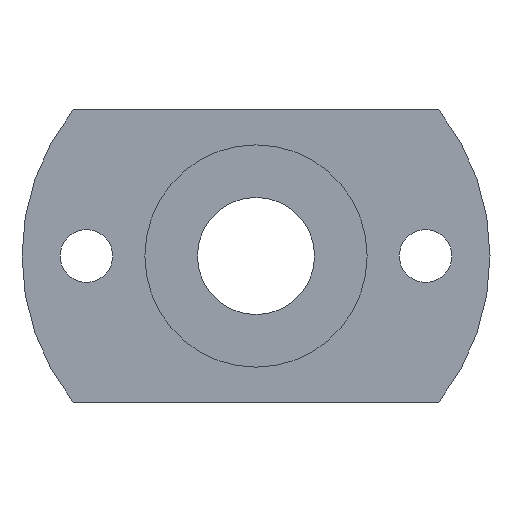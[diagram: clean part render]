
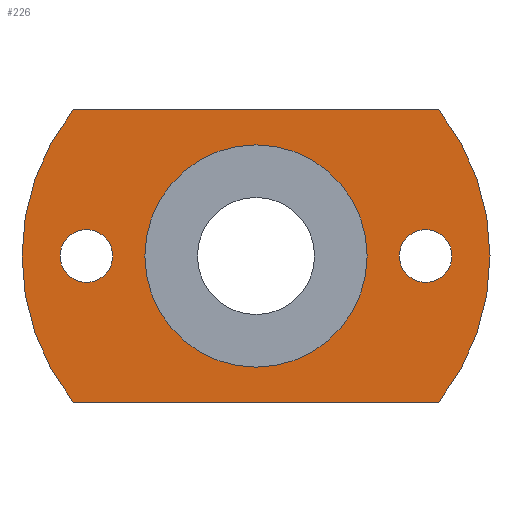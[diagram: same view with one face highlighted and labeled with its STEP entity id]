
A CAD part, left-side view. The second image highlights one B-rep face of the part: STEP entity #226.
In plain terms, the highlighted planar face has unit normal (-1, 0, 0).
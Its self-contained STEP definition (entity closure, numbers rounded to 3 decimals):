
#24=PLANE('',#267);
#31=LINE('',#392,#39);
#32=LINE('',#396,#40);
#39=VECTOR('',#326,1000.);
#40=VECTOR('',#329,1000.);
#64=ORIENTED_EDGE('',*,*,#108,.T.);
#65=ORIENTED_EDGE('',*,*,#109,.F.);
#66=ORIENTED_EDGE('',*,*,#110,.T.);
#67=ORIENTED_EDGE('',*,*,#93,.F.);
#68=ORIENTED_EDGE('',*,*,#111,.T.);
#69=ORIENTED_EDGE('',*,*,#112,.T.);
#70=ORIENTED_EDGE('',*,*,#100,.T.);
#93=EDGE_CURVE('',#117,#118,#136,.T.);
#100=EDGE_CURVE('',#124,#124,#142,.T.);
#108=EDGE_CURVE('',#117,#131,#31,.T.);
#109=EDGE_CURVE('',#132,#131,#148,.T.);
#110=EDGE_CURVE('',#132,#118,#32,.T.);
#111=EDGE_CURVE('',#133,#133,#149,.T.);
#112=EDGE_CURVE('',#134,#134,#150,.T.);
#117=VERTEX_POINT('',#356);
#118=VERTEX_POINT('',#358);
#124=VERTEX_POINT('',#374);
#131=VERTEX_POINT('',#393);
#132=VERTEX_POINT('',#395);
#133=VERTEX_POINT('',#398);
#134=VERTEX_POINT('',#400);
#136=CIRCLE('',#249,20.);
#142=CIRCLE('',#258,9.5);
#148=CIRCLE('',#268,20.);
#149=CIRCLE('',#269,2.25);
#150=CIRCLE('',#270,2.25);
#166=EDGE_LOOP('',(#64,#65,#66,#67));
#167=EDGE_LOOP('',(#68));
#168=EDGE_LOOP('',(#69));
#169=EDGE_LOOP('',(#70));
#196=FACE_BOUND('',#166,.T.);
#197=FACE_BOUND('',#167,.T.);
#198=FACE_BOUND('',#168,.T.);
#199=FACE_BOUND('',#169,.T.);
#226=ADVANCED_FACE('',(#196,#197,#198,#199),#24,.F.);
#249=AXIS2_PLACEMENT_3D('',#357,#285,#286);
#258=AXIS2_PLACEMENT_3D('',#373,#304,#305);
#267=AXIS2_PLACEMENT_3D('',#391,#324,#325);
#268=AXIS2_PLACEMENT_3D('',#394,#327,#328);
#269=AXIS2_PLACEMENT_3D('',#397,#330,#331);
#270=AXIS2_PLACEMENT_3D('',#399,#332,#333);
#285=DIRECTION('',(1.,0.,0.));
#286=DIRECTION('',(0.,0.,-1.));
#304=DIRECTION('',(1.,0.,0.));
#305=DIRECTION('',(0.,0.,-1.));
#324=DIRECTION('',(1.,0.,0.));
#325=DIRECTION('',(0.,0.,-1.));
#326=DIRECTION('',(0.,1.,0.));
#327=DIRECTION('',(1.,0.,0.));
#328=DIRECTION('',(0.,0.,-1.));
#329=DIRECTION('',(0.,-1.,0.));
#330=DIRECTION('',(1.,0.,0.));
#331=DIRECTION('',(0.,0.,-1.));
#332=DIRECTION('',(1.,0.,0.));
#333=DIRECTION('',(0.,0.,-1.));
#356=CARTESIAN_POINT('',(21.5,-15.612,12.5));
#357=CARTESIAN_POINT('',(21.5,0.,0.));
#358=CARTESIAN_POINT('',(21.5,-15.612,-12.5));
#373=CARTESIAN_POINT('',(21.5,0.,0.));
#374=CARTESIAN_POINT('',(21.5,0.,-9.5));
#391=CARTESIAN_POINT('',(21.5,0.,0.));
#392=CARTESIAN_POINT('',(21.5,22.08,12.5));
#393=CARTESIAN_POINT('',(21.5,15.612,12.5));
#394=CARTESIAN_POINT('',(21.5,0.,0.));
#395=CARTESIAN_POINT('',(21.5,15.612,-12.5));
#396=CARTESIAN_POINT('',(21.5,22.08,-12.5));
#397=CARTESIAN_POINT('',(21.5,-14.5,0.));
#398=CARTESIAN_POINT('',(21.5,-14.5,-2.25));
#399=CARTESIAN_POINT('',(21.5,14.5,0.));
#400=CARTESIAN_POINT('',(21.5,14.5,-2.25));
